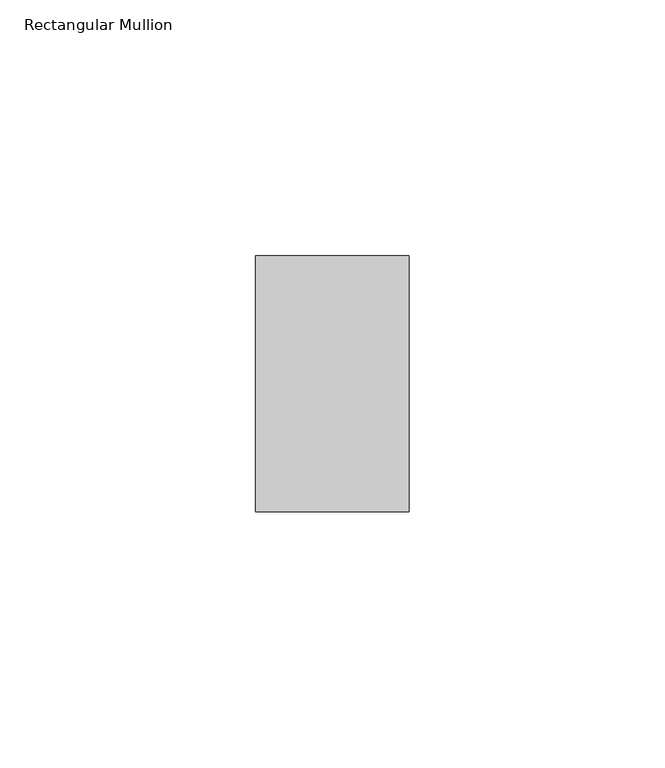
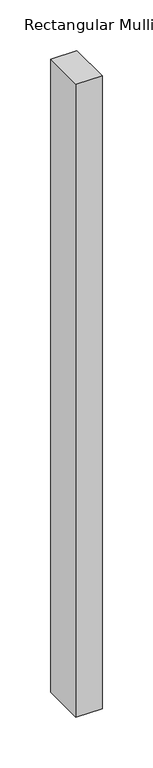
"""IFC4 building model written with IfcOpenShell, lengths in millimetres: member geometry, Rectangular Mullion : ARQ_TV_MULL_50x30mm."""

from ifc_helpers import new_model, si_unit, frame, origin, place, context, project, spatial, polyline, outline, extrude, source, transform, mapped, element, save


def rectangular_mullion_2051d734(model_context):
    return source(origin(), model_context, "Body", "SweptSolid", [
        extrude(outline(polyline([(0.0, 25.0), (0.0, -25.0), (-30.0, -25.0), (-30.0, 25.0), (0.0, 25.0)])), frame((0.0, 0.0, -763.7648155), z_axis=(0.0, 0.0, 1.0), x_axis=(1.0, 0.0, 0.0)), (0.0, 0.0, 1.0), 763.7648155),
    ])


if __name__ == "__main__":
    model = new_model("IFC4")
    model_context = context("Model", 3, world=origin())
    ifc_project = project(units=[si_unit("LENGTHUNIT", "METRE", prefix="MILLI")], contexts=[model_context])
    site = spatial("IfcSite", under=ifc_project)
    building = spatial("IfcBuilding", under=site)
    placement = place(None, origin())
    rectangular_mullion_shape = rectangular_mullion_2051d734(model_context)
    element("IfcMember", 1, ObjectType="Rectangular Mullion : ARQ_TV_MULL_50x30mm", at=placement, inside=building, context=model_context, shape_type="MappedRepresentation", body=[
        mapped(rectangular_mullion_shape, transform((0.0, 0.0, 0.0), x_axis=(1.0, 0.0, 0.0), y_axis=(0.0, 1.0, 0.0), z_axis=(0.0, 0.0, 1.0))),
    ])
    save(model, "model.ifc")
